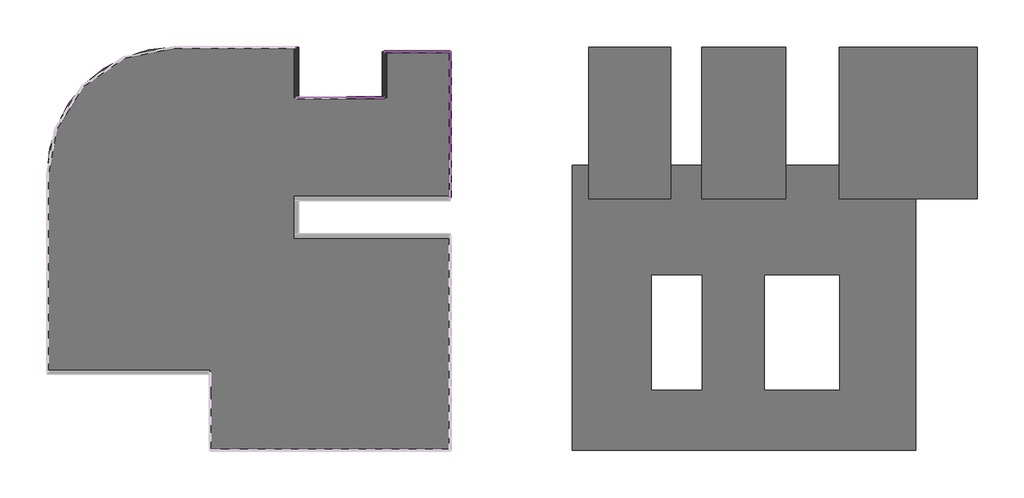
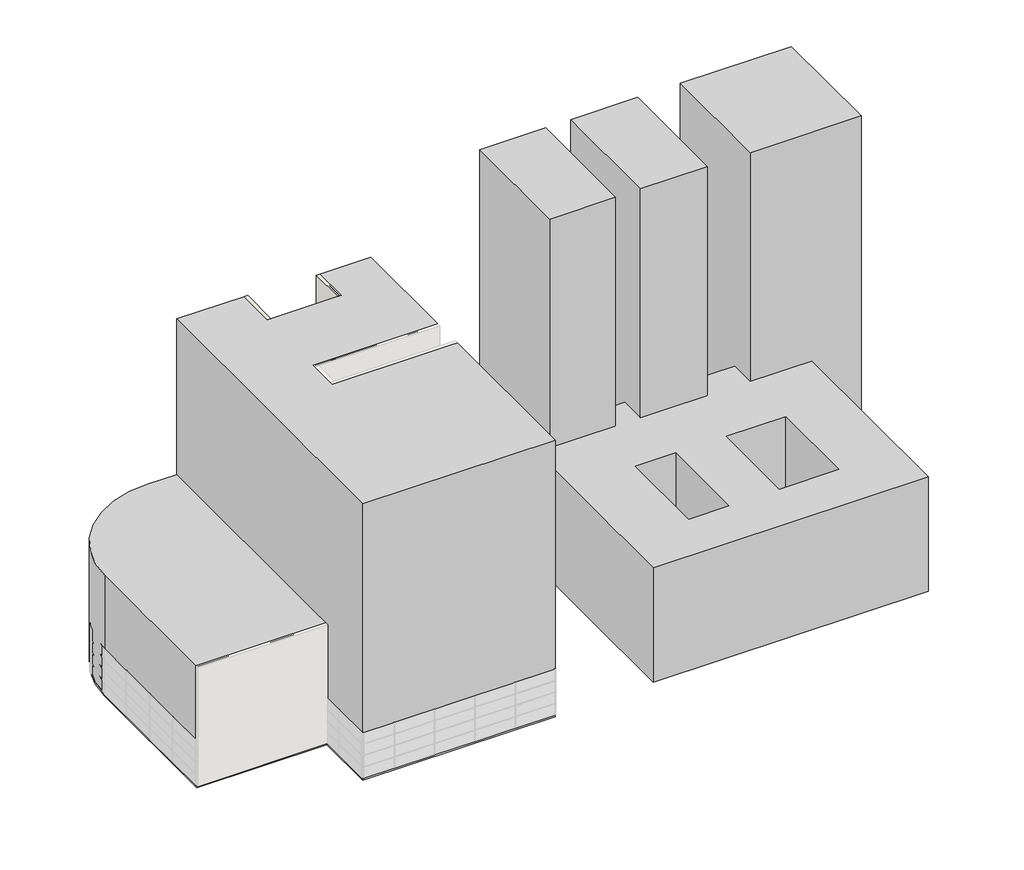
# One storey, part 4 of 4: 61 members, 21 plates, 2 proxies, 2 walls, 1 slab.
"""IFC4 building model written with IfcOpenShell, lengths in millimetres."""

from ifc_helpers import new_model, si_unit, point, frame, frame_2d, origin, origin_with_axes, place, context, project, spatial, polyline, circle_curve, trimmed, segment, composite_curve, outline, extrude, transform, mapped, element, save
from ifc_brep_helpers import plane_surface, cylinder_surface, advanced_brep
from components import rectangular_mullion_50_x_150mm_d99dc9be, rectangular_mullion_50_x_150mm_182bfbd5, rectangular_mullion_50_x_150mm_402ab136, rectangular_mullion_50_x_150mm_6588f46c, rectangular_mullion_50_x_150mm_3fe1b35e, rectangular_mullion_50_x_150mm_a037c29c, rectangular_mullion_50_x_150mm_c2546fd4, rectangular_mullion_50_x_150mm_5eb82d41, rectangular_mullion_50_x_150mm_1a85c1a0, rectangular_mullion_50_x_150mm_185cfd49, rectangular_mullion_50_x_150mm_2fe63767, rectangular_mullion_50_x_150mm_4a524db7, system_panel_glazed_ecbc047f, system_panel_glazed_0d1816dc, system_panel_glazed_8e9402eb, system_panel_glazed_89ac83a7, system_panel_glazed_29e23e46, system_panel_glazed_e3e91f99, system_panel_glazed_0c6ae723, system_panel_glazed_39d17f19

model = new_model("IFC4")

# Units and contexts
model_context = context("Model", 3, world=origin())
ifc_project = project(units=[si_unit("LENGTHUNIT", "METRE", prefix="MILLI")], contexts=[model_context])

# Site, building, storey
site = spatial("IfcSite", under=ifc_project)
building = spatial("IfcBuilding", under=site)
storey = spatial("IfcBuildingStorey", under=building, Name="Suteren", Elevation=0.0)

# Proxies
placement = place(None, origin())
element("IfcBuildingElementProxy", 1, Name="Budova 3 : Budova 3", ObjectType="Budova 3 : Budova 3", at=placement, inside=storey, context=model_context, shape_type="AdvancedBrep", body=[
    advanced_brep(
    [(-5587.173406, 8375.9839566, 28773.2453384), (-5587.173406, -23624.0160434, 28773.2453384), (13503.2660975, -23624.0160434, 28773.2453384), (13503.2660975, -6624.0160434, 28773.2453384), (1278.419219, -6624.0160434, 28773.2453384), (1278.419219, -3624.0160434, 28773.2453384), (13503.2660975, -3624.0160434, 28773.2453384), (13503.2660975, 8039.3555415, 28773.2453384), (8278.419219, 8039.3555415, 28773.2453384), (8278.419219, 4375.9839566, 28773.2453384), (1278.419219, 4375.9839566, 28773.2453384), (1278.419219, 8375.9839566, 28773.2453384), (-18496.7339025, -17423.5291324, 0.0), (-18496.7339025, -1624.0160434, 0.0), (-8496.7339025, 8375.9839566, 0.0), (-5587.173406, 8375.9839566, 0.0), (1278.419219, 8375.9839566, 0.0), (1278.419219, 4375.9839566, 0.0), (8278.419219, 4375.9839566, 0.0), (8278.419219, 8039.3555415, 0.0), (13503.2660975, 8039.3555415, 0.0), (13503.2660975, -3624.0160434, 0.0), (1278.419219, -3624.0160434, 0.0), (1278.419219, -6624.0160434, 0.0), (13503.2660975, -6624.0160434, 0.0), (13503.2660975, -23624.0160434, 0.0), (-5587.173406, -23624.0160434, 0.0), (-5587.173406, -17423.5291324, 0.0), (-5587.173406, -17423.5291324, 12448.4924443), (-18496.7339025, -17423.5291324, 12448.4924443), (-5587.173406, 8375.9839566, 12448.4924443), (-8496.7339025, 8375.9839566, 12448.4924443), (-18496.7339025, -1624.0160434, 12448.4924443)],
    [
        (0, 1),
        (1, 2),
        (2, 3),
        (3, 4),
        (4, 5),
        (5, 6),
        (6, 7),
        (7, 8),
        (8, 9),
        (9, 10),
        (10, 11),
        (11, 0),
        (12, 13),
        (13, 14, circle_curve(frame((-8496.7339025, -1624.0160434, 0.0), z_axis=(0.0, 0.0, -1.0), x_axis=(1.0, 0.0, 0.0)), 10000.0)),
        (14, 15),
        (15, 16),
        (16, 17),
        (17, 18),
        (18, 19),
        (19, 20),
        (20, 21),
        (21, 22),
        (22, 23),
        (23, 24),
        (24, 25),
        (25, 26),
        (26, 27),
        (27, 12),
        (27, 28),
        (28, 29),
        (29, 12),
        (0, 30),
        (30, 28),
        (26, 1),
        (25, 2),
        (24, 3),
        (23, 4),
        (22, 5),
        (21, 6),
        (20, 7),
        (19, 8),
        (18, 9),
        (17, 10),
        (16, 11),
        (15, 30),
        (14, 31),
        (31, 30),
        (13, 32),
        (32, 31, circle_curve(frame((-8496.7339025, -1624.0160434, 12448.4924443), z_axis=(0.0, 0.0, -1.0), x_axis=(1.0, 0.0, 0.0)), 10000.0)),
        (29, 32),
    ],
    [
        plane_surface(frame((-18496.7339025, -17423.5291324, 28773.2453384), z_axis=(0.0, 0.0, 1.0), x_axis=(1.0, 0.0, 0.0))),
        plane_surface(frame((-18496.7339025, -17423.5291324, 0.0), z_axis=(0.0, 0.0, -1.0), x_axis=(-1.0, 0.0, 0.0))),
        plane_surface(frame((-18496.7339025, -17423.5291324, 28773.2453384), z_axis=(0.0, -1.0, 0.0), x_axis=(0.0, 0.0, -1.0))),
        plane_surface(frame((-5587.173406, -17423.5291324, 28773.2453384), z_axis=(-1.0, 0.0, 0.0), x_axis=(0.0, 0.0, -1.0))),
        plane_surface(frame((-5587.173406, -23624.0160434, 28773.2453384), z_axis=(0.0, -1.0, 0.0), x_axis=(0.0, 0.0, -1.0))),
        plane_surface(frame((13503.2660975, -23624.0160434, 28773.2453384), z_axis=(1.0, 0.0, 0.0), x_axis=(0.0, 0.0, -1.0))),
        plane_surface(frame((13503.2660975, -6624.0160434, 28773.2453384), z_axis=(0.0, 1.0, 0.0), x_axis=(0.0, 0.0, -1.0))),
        plane_surface(frame((1278.419219, -6624.0160434, 28773.2453384), z_axis=(1.0, 0.0, 0.0), x_axis=(0.0, 0.0, -1.0))),
        plane_surface(frame((1278.419219, -3624.0160434, 28773.2453384), z_axis=(0.0, -1.0, 0.0), x_axis=(0.0, 0.0, -1.0))),
        plane_surface(frame((13503.2660975, -3624.0160434, 28773.2453384), z_axis=(1.0, 0.0, 0.0), x_axis=(0.0, 0.0, -1.0))),
        plane_surface(frame((13503.2660975, 8039.3555415, 28773.2453384), z_axis=(0.0, 1.0, 0.0), x_axis=(0.0, 0.0, -1.0))),
        plane_surface(frame((8278.419219, 8039.3555415, 28773.2453384), z_axis=(-1.0, 0.0, 0.0), x_axis=(0.0, 0.0, -1.0))),
        plane_surface(frame((8278.419219, 4375.9839566, 28773.2453384), z_axis=(0.0, 1.0, 0.0), x_axis=(0.0, 0.0, -1.0))),
        plane_surface(frame((1278.419219, 4375.9839566, 28773.2453384), z_axis=(1.0, 0.0, 0.0), x_axis=(0.0, 0.0, -1.0))),
        plane_surface(frame((1278.419219, 8375.9839566, 28773.2453384), z_axis=(0.0, 1.0, 0.0), x_axis=(0.0, 0.0, -1.0))),
        plane_surface(frame((-5587.173406, 8375.9839566, 28773.2453384), z_axis=(0.0, 1.0, 0.0), x_axis=(0.0, 0.0, -1.0))),
        cylinder_surface(frame((-8496.7339025, -1624.0160434, 0.0), z_axis=(0.0, 0.0, 1.0), x_axis=(1.0, 0.0, 0.0)), 10000.0),
        plane_surface(frame((-18496.7339025, -1624.0160434, 28773.2453384), z_axis=(-1.0, 0.0, 0.0), x_axis=(0.0, 0.0, -1.0))),
        plane_surface(frame((-5587.173406, 14419.6192508, 12448.4924443), z_axis=(0.0, 0.0, 1.0), x_axis=(0.0, -1.0, 0.0))),
    ],
    [
        (0, [[1, 2, 3, 4, 5, 6, 7, 8, 9, 10, 11, 12]]),
        (1, [[13, 14, 15, 16, 17, 18, 19, 20, 21, 22, 23, 24, 25, 26, 27, 28]]),
        (2, [[-28, 29, 30, 31]]),
        (3, [[32, 33, -29, -27, 34, -1]]),
        (4, [[-2, -34, -26, 35]]),
        (5, [[-3, -35, -25, 36]]),
        (6, [[-4, -36, -24, 37]]),
        (7, [[-5, -37, -23, 38]]),
        (8, [[-6, -38, -22, 39]]),
        (9, [[-7, -39, -21, 40]]),
        (10, [[-8, -40, -20, 41]]),
        (11, [[-9, -41, -19, 42]]),
        (12, [[-10, -42, -18, 43]]),
        (13, [[-11, -43, -17, 44]]),
        (14, [[-12, -44, -16, 45, -32]]),
        (15, [[-15, 46, 47, -45]]),
        (16, [[-14, 48, 49, -46]]),
        (17, [[-13, -31, 50, -48]]),
        (18, [[-33, -47, -49, -50, -30]]),
    ],
),
])
element("IfcBuildingElementProxy", 2, Name="Budova 4 : Budova 4", ObjectType="Budova 4 : Budova 4", at=placement, inside=storey, context=model_context, shape_type="SweptSolid", body=[
    extrude(outline(polyline([(31028.3078366, 8375.9839566), (31028.3078366, -3624.0160434), (24503.2660975, -3624.0160434), (24503.2660975, 8375.9839566), (31028.3078366, 8375.9839566)])), origin_with_axes(), (0.0, 0.0, 1.0), 36000.0),
    extrude(outline(polyline([(40154.0002696, 8375.9839566), (40154.0002696, -3624.0160434), (33503.2660975, -3624.0160434), (33503.2660975, 8375.9839566), (40154.0002696, 8375.9839566)])), origin_with_axes(), (0.0, 0.0, 1.0), 36000.0),
    extrude(outline(polyline([(44401.4778879, -3624.0160434), (44401.4778879, 8375.9839566), (55401.4778879, 8375.9839566), (55401.4778879, -3624.0160434), (44401.4778879, -3624.0160434)])), origin_with_axes(), (0.0, 0.0, 1.0), 36000.0),
    extrude(outline(polyline([(24503.2660975, -967.486669), (24503.2660975, -3624.0160434), (31028.3078366, -3624.0160434), (31028.3078366, -967.486669), (33503.2660975, -967.486669), (33503.2660975, -3624.0160434), (40154.0002696, -3624.0160434), (40154.0002696, -967.486669), (44401.4778879, -967.486669), (44401.4778879, -3624.0160434), (50503.2660975, -3624.0160434), (50503.2660975, -23624.0160434), (23208.2992989, -23624.0160434), (23208.2992989, -967.486669), (24503.2660975, -967.486669)]), holes=[polyline([(44401.4778879, -9707.9757481), (38503.2660975, -9707.9757481), (38503.2660975, -18836.9310085), (44401.4778879, -18836.9310085), (44401.4778879, -9707.9757481)]), polyline([(33503.2660975, -9707.9757481), (29503.2660975, -9707.9757481), (29503.2660975, -18836.9310085), (33503.2660975, -18836.9310085), (33503.2660975, -9707.9757481)])]), origin_with_axes(), (0.0, 0.0, 1.0), 12000.0),
])

# Members
rectangular_mullion_50_x_150mm_shape = rectangular_mullion_50_x_150mm_d99dc9be(model_context)
element("IfcMember", 3, ObjectType="Rectangular Mullion : 50 x 150mm", at=placement, inside=storey, context=model_context, shape_type="MappedRepresentation", body=[
    mapped(rectangular_mullion_50_x_150mm_shape, transform((13503.2660975, 39.3555415, 4800.0), x_axis=(0.0, -1.0, 0.0), y_axis=(1.0, 0.0, 0.0), z_axis=(0.0, 0.0, 1.0))),
])
element("IfcMember", 4, ObjectType="Rectangular Mullion : 50 x 150mm", at=placement, inside=storey, context=model_context, shape_type="MappedRepresentation", body=[
    mapped(rectangular_mullion_50_x_150mm_shape, transform((13503.2660975, 39.3555415, 3600.0), x_axis=(0.0, -1.0, 0.0), y_axis=(1.0, 0.0, 0.0), z_axis=(0.0, 0.0, 1.0))),
])
element("IfcMember", 5, ObjectType="Rectangular Mullion : 50 x 150mm", at=placement, inside=storey, context=model_context, shape_type="MappedRepresentation", body=[
    mapped(rectangular_mullion_50_x_150mm_shape, transform((13503.2660975, 39.3555415, 2400.0), x_axis=(0.0, -1.0, 0.0), y_axis=(1.0, 0.0, 0.0), z_axis=(0.0, 0.0, 1.0))),
])
element("IfcMember", 6, ObjectType="Rectangular Mullion : 50 x 150mm", at=placement, inside=storey, context=model_context, shape_type="MappedRepresentation", body=[
    mapped(rectangular_mullion_50_x_150mm_shape, transform((13503.2660975, 4039.3555415, 4800.0), x_axis=(0.0, -1.0, 0.0), y_axis=(1.0, 0.0, 0.0), z_axis=(0.0, 0.0, 1.0))),
])
element("IfcMember", 7, ObjectType="Rectangular Mullion : 50 x 150mm", at=placement, inside=storey, context=model_context, shape_type="MappedRepresentation", body=[
    mapped(rectangular_mullion_50_x_150mm_shape, transform((13503.2660975, 4039.3555415, 3600.0), x_axis=(0.0, -1.0, 0.0), y_axis=(1.0, 0.0, 0.0), z_axis=(0.0, 0.0, 1.0))),
])
element("IfcMember", 8, ObjectType="Rectangular Mullion : 50 x 150mm", at=placement, inside=storey, context=model_context, shape_type="MappedRepresentation", body=[
    mapped(rectangular_mullion_50_x_150mm_shape, transform((13503.2660975, 4039.3555415, 2400.0), x_axis=(0.0, -1.0, 0.0), y_axis=(1.0, 0.0, 0.0), z_axis=(0.0, 0.0, 1.0))),
])
element("IfcMember", 9, ObjectType="Rectangular Mullion : 50 x 150mm", at=placement, inside=storey, context=model_context, shape_type="MappedRepresentation", body=[
    mapped(rectangular_mullion_50_x_150mm_shape, transform((5278.419219, 4375.9839566, 2400.0), x_axis=(1.0, 0.0, 0.0), y_axis=(0.0, 1.0, 0.0), z_axis=(0.0, 0.0, 1.0))),
])
element("IfcMember", 10, ObjectType="Rectangular Mullion : 50 x 150mm", at=placement, inside=storey, context=model_context, shape_type="MappedRepresentation", body=[
    mapped(rectangular_mullion_50_x_150mm_shape, transform((5278.419219, 4375.9839566, 3600.0), x_axis=(1.0, 0.0, 0.0), y_axis=(0.0, 1.0, 0.0), z_axis=(0.0, 0.0, 1.0))),
])
element("IfcMember", 11, ObjectType="Rectangular Mullion : 50 x 150mm", at=placement, inside=storey, context=model_context, shape_type="MappedRepresentation", body=[
    mapped(rectangular_mullion_50_x_150mm_shape, transform((5278.419219, 4375.9839566, 4800.0), x_axis=(1.0, 0.0, 0.0), y_axis=(0.0, 1.0, 0.0), z_axis=(0.0, 0.0, 1.0))),
])
element("IfcMember", 12, ObjectType="Rectangular Mullion : 50 x 150mm", at=placement, inside=storey, context=model_context, shape_type="MappedRepresentation", body=[
    mapped(rectangular_mullion_50_x_150mm_shape, transform((12278.419219, 8039.3555415, 2400.0), x_axis=(1.0, 0.0, 0.0), y_axis=(0.0, 1.0, 0.0), z_axis=(0.0, 0.0, 1.0))),
])
element("IfcMember", 13, ObjectType="Rectangular Mullion : 50 x 150mm", at=placement, inside=storey, context=model_context, shape_type="MappedRepresentation", body=[
    mapped(rectangular_mullion_50_x_150mm_shape, transform((12278.419219, 8039.3555415, 3600.0), x_axis=(1.0, 0.0, 0.0), y_axis=(0.0, 1.0, 0.0), z_axis=(0.0, 0.0, 1.0))),
])
element("IfcMember", 14, ObjectType="Rectangular Mullion : 50 x 150mm", at=placement, inside=storey, context=model_context, shape_type="MappedRepresentation", body=[
    mapped(rectangular_mullion_50_x_150mm_shape, transform((12278.419219, 8039.3555415, 4800.0), x_axis=(1.0, 0.0, 0.0), y_axis=(0.0, 1.0, 0.0), z_axis=(0.0, 0.0, 1.0))),
])
element("IfcMember", 15, ObjectType="Rectangular Mullion : 50 x 150mm", at=placement, inside=storey, context=model_context, shape_type="MappedRepresentation", body=[
    mapped(rectangular_mullion_50_x_150mm_shape, transform((13503.2660975, 39.3555415, 1200.0), x_axis=(0.0, -1.0, 0.0), y_axis=(1.0, 0.0, 0.0), z_axis=(0.0, 0.0, 1.0))),
])
element("IfcMember", 16, ObjectType="Rectangular Mullion : 50 x 150mm", at=placement, inside=storey, context=model_context, shape_type="MappedRepresentation", body=[
    mapped(rectangular_mullion_50_x_150mm_shape, transform((13503.2660975, 4039.3555415, 1200.0), x_axis=(0.0, -1.0, 0.0), y_axis=(1.0, 0.0, 0.0), z_axis=(0.0, 0.0, 1.0))),
])
element("IfcMember", 17, ObjectType="Rectangular Mullion : 50 x 150mm", at=placement, inside=storey, context=model_context, shape_type="MappedRepresentation", body=[
    mapped(rectangular_mullion_50_x_150mm_shape, transform((5278.419219, 4375.9839566, 1200.0), x_axis=(1.0, 0.0, 0.0), y_axis=(0.0, 1.0, 0.0), z_axis=(0.0, 0.0, 1.0))),
])
element("IfcMember", 18, ObjectType="Rectangular Mullion : 50 x 150mm", at=placement, inside=storey, context=model_context, shape_type="MappedRepresentation", body=[
    mapped(rectangular_mullion_50_x_150mm_shape, transform((12278.419219, 8039.3555415, 1200.0), x_axis=(1.0, 0.0, 0.0), y_axis=(0.0, 1.0, 0.0), z_axis=(0.0, 0.0, 1.0))),
])
rectangular_mullion_50_x_150mm_2_shape = rectangular_mullion_50_x_150mm_182bfbd5(model_context)
element("IfcMember", 19, ObjectType="Rectangular Mullion : 50 x 150mm", at=placement, inside=storey, context=model_context, shape_type="MappedRepresentation", body=[
    mapped(rectangular_mullion_50_x_150mm_2_shape, transform((13503.2660975, 64.3555415, 0.0), x_axis=(0.0, 0.0, -1.0), y_axis=(1.0, 0.0, 0.0), z_axis=(0.0, -1.0, 0.0))),
])
rectangular_mullion_50_x_150mm_3_shape = rectangular_mullion_50_x_150mm_402ab136(model_context)
element("IfcMember", 20, ObjectType="Rectangular Mullion : 50 x 150mm", at=placement, inside=storey, context=model_context, shape_type="MappedRepresentation", body=[
    mapped(rectangular_mullion_50_x_150mm_3_shape, transform((13503.2660975, 4064.3555415, 0.0), x_axis=(0.0, 0.0, -1.0), y_axis=(1.0, 0.0, 0.0), z_axis=(0.0, -1.0, 0.0))),
])
element("IfcMember", 21, ObjectType="Rectangular Mullion : 50 x 150mm", at=placement, inside=storey, context=model_context, shape_type="MappedRepresentation", body=[
    mapped(rectangular_mullion_50_x_150mm_3_shape, transform((5253.419219, 4375.9839566, 0.0), x_axis=(0.0, 0.0, -1.0), y_axis=(0.0, 1.0, 0.0), z_axis=(1.0, 0.0, 0.0))),
])
element("IfcMember", 22, ObjectType="Rectangular Mullion : 50 x 150mm", at=placement, inside=storey, context=model_context, shape_type="MappedRepresentation", body=[
    mapped(rectangular_mullion_50_x_150mm_3_shape, transform((12253.419219, 8039.3555415, 0.0), x_axis=(0.0, 0.0, -1.0), y_axis=(0.0, 1.0, 0.0), z_axis=(1.0, 0.0, 0.0))),
])
rectangular_mullion_50_x_150mm_4_shape = rectangular_mullion_50_x_150mm_6588f46c(model_context)
element("IfcMember", 23, ObjectType="Rectangular Mullion : 50 x 150mm", at=placement, inside=storey, context=model_context, shape_type="MappedRepresentation", body=[
    mapped(rectangular_mullion_50_x_150mm_4_shape, transform((1278.419219, 8375.9839566, 2400.0), x_axis=(1.0, 0.0, 0.0), y_axis=(0.0, 1.0, 0.0), z_axis=(0.0, 0.0, 1.0))),
])
element("IfcMember", 24, ObjectType="Rectangular Mullion : 50 x 150mm", at=placement, inside=storey, context=model_context, shape_type="MappedRepresentation", body=[
    mapped(rectangular_mullion_50_x_150mm_4_shape, transform((1278.419219, 8375.9839566, 3600.0), x_axis=(1.0, 0.0, 0.0), y_axis=(0.0, 1.0, 0.0), z_axis=(0.0, 0.0, 1.0))),
])
element("IfcMember", 25, ObjectType="Rectangular Mullion : 50 x 150mm", at=placement, inside=storey, context=model_context, shape_type="MappedRepresentation", body=[
    mapped(rectangular_mullion_50_x_150mm_4_shape, transform((1278.419219, 8375.9839566, 4800.0), x_axis=(1.0, 0.0, 0.0), y_axis=(0.0, 1.0, 0.0), z_axis=(0.0, 0.0, 1.0))),
])
element("IfcMember", 26, ObjectType="Rectangular Mullion : 50 x 150mm", at=placement, inside=storey, context=model_context, shape_type="MappedRepresentation", body=[
    mapped(rectangular_mullion_50_x_150mm_4_shape, transform((8278.419219, 4375.9839566, 2400.0), x_axis=(1.0, 0.0, 0.0), y_axis=(0.0, 1.0, 0.0), z_axis=(0.0, 0.0, 1.0))),
])
element("IfcMember", 27, ObjectType="Rectangular Mullion : 50 x 150mm", at=placement, inside=storey, context=model_context, shape_type="MappedRepresentation", body=[
    mapped(rectangular_mullion_50_x_150mm_4_shape, transform((8278.419219, 4375.9839566, 3600.0), x_axis=(1.0, 0.0, 0.0), y_axis=(0.0, 1.0, 0.0), z_axis=(0.0, 0.0, 1.0))),
])
element("IfcMember", 28, ObjectType="Rectangular Mullion : 50 x 150mm", at=placement, inside=storey, context=model_context, shape_type="MappedRepresentation", body=[
    mapped(rectangular_mullion_50_x_150mm_4_shape, transform((8278.419219, 4375.9839566, 4800.0), x_axis=(1.0, 0.0, 0.0), y_axis=(0.0, 1.0, 0.0), z_axis=(0.0, 0.0, 1.0))),
])
element("IfcMember", 29, ObjectType="Rectangular Mullion : 50 x 150mm", at=placement, inside=storey, context=model_context, shape_type="MappedRepresentation", body=[
    mapped(rectangular_mullion_50_x_150mm_4_shape, transform((13503.2660975, 8039.3555415, 2400.0), x_axis=(1.0, 0.0, 0.0), y_axis=(0.0, 1.0, 0.0), z_axis=(0.0, 0.0, 1.0))),
])
element("IfcMember", 30, ObjectType="Rectangular Mullion : 50 x 150mm", at=placement, inside=storey, context=model_context, shape_type="MappedRepresentation", body=[
    mapped(rectangular_mullion_50_x_150mm_4_shape, transform((13503.2660975, 8039.3555415, 3600.0), x_axis=(1.0, 0.0, 0.0), y_axis=(0.0, 1.0, 0.0), z_axis=(0.0, 0.0, 1.0))),
])
element("IfcMember", 31, ObjectType="Rectangular Mullion : 50 x 150mm", at=placement, inside=storey, context=model_context, shape_type="MappedRepresentation", body=[
    mapped(rectangular_mullion_50_x_150mm_4_shape, transform((13503.2660975, 8039.3555415, 4800.0), x_axis=(1.0, 0.0, 0.0), y_axis=(0.0, 1.0, 0.0), z_axis=(0.0, 0.0, 1.0))),
])
element("IfcMember", 32, ObjectType="Rectangular Mullion : 50 x 150mm", at=placement, inside=storey, context=model_context, shape_type="MappedRepresentation", body=[
    mapped(rectangular_mullion_50_x_150mm_4_shape, transform((1278.419219, 8375.9839566, 1200.0), x_axis=(1.0, 0.0, 0.0), y_axis=(0.0, 1.0, 0.0), z_axis=(0.0, 0.0, 1.0))),
])
element("IfcMember", 33, ObjectType="Rectangular Mullion : 50 x 150mm", at=placement, inside=storey, context=model_context, shape_type="MappedRepresentation", body=[
    mapped(rectangular_mullion_50_x_150mm_4_shape, transform((8278.419219, 4375.9839566, 1200.0), x_axis=(1.0, 0.0, 0.0), y_axis=(0.0, 1.0, 0.0), z_axis=(0.0, 0.0, 1.0))),
])
element("IfcMember", 34, ObjectType="Rectangular Mullion : 50 x 150mm", at=placement, inside=storey, context=model_context, shape_type="MappedRepresentation", body=[
    mapped(rectangular_mullion_50_x_150mm_4_shape, transform((13503.2660975, 8039.3555415, 1200.0), x_axis=(1.0, 0.0, 0.0), y_axis=(0.0, 1.0, 0.0), z_axis=(0.0, 0.0, 1.0))),
])
rectangular_mullion_50_x_150mm_5_shape = rectangular_mullion_50_x_150mm_3fe1b35e(model_context)
element("IfcMember", 35, ObjectType="Rectangular Mullion : 50 x 150mm", at=placement, inside=storey, context=model_context, shape_type="MappedRepresentation", body=[
    mapped(rectangular_mullion_50_x_150mm_5_shape, transform((13503.2660975, 14.3555415, 3600.0), x_axis=(0.0, 0.0, 1.0), y_axis=(1.0, 0.0, 0.0), z_axis=(0.0, 1.0, 0.0))),
])
element("IfcMember", 36, ObjectType="Rectangular Mullion : 50 x 150mm", at=placement, inside=storey, context=model_context, shape_type="MappedRepresentation", body=[
    mapped(rectangular_mullion_50_x_150mm_5_shape, transform((13503.2660975, 14.3555415, 2400.0), x_axis=(0.0, 0.0, 1.0), y_axis=(1.0, 0.0, 0.0), z_axis=(0.0, 1.0, 0.0))),
])
element("IfcMember", 37, ObjectType="Rectangular Mullion : 50 x 150mm", at=placement, inside=storey, context=model_context, shape_type="MappedRepresentation", body=[
    mapped(rectangular_mullion_50_x_150mm_5_shape, transform((13503.2660975, 14.3555415, 1200.0), x_axis=(0.0, 0.0, 1.0), y_axis=(1.0, 0.0, 0.0), z_axis=(0.0, 1.0, 0.0))),
])
rectangular_mullion_50_x_150mm_6_shape = rectangular_mullion_50_x_150mm_a037c29c(model_context)
element("IfcMember", 38, ObjectType="Rectangular Mullion : 50 x 150mm", at=placement, inside=storey, context=model_context, shape_type="MappedRepresentation", body=[
    mapped(rectangular_mullion_50_x_150mm_6_shape, transform((13503.2660975, 4014.3555415, 3600.0), x_axis=(0.0, 0.0, 1.0), y_axis=(1.0, 0.0, 0.0), z_axis=(0.0, 1.0, 0.0))),
])
element("IfcMember", 39, ObjectType="Rectangular Mullion : 50 x 150mm", at=placement, inside=storey, context=model_context, shape_type="MappedRepresentation", body=[
    mapped(rectangular_mullion_50_x_150mm_6_shape, transform((13503.2660975, 4014.3555415, 2400.0), x_axis=(0.0, 0.0, 1.0), y_axis=(1.0, 0.0, 0.0), z_axis=(0.0, 1.0, 0.0))),
])
element("IfcMember", 40, ObjectType="Rectangular Mullion : 50 x 150mm", at=placement, inside=storey, context=model_context, shape_type="MappedRepresentation", body=[
    mapped(rectangular_mullion_50_x_150mm_6_shape, transform((13503.2660975, 4014.3555415, 1200.0), x_axis=(0.0, 0.0, 1.0), y_axis=(1.0, 0.0, 0.0), z_axis=(0.0, 1.0, 0.0))),
])
rectangular_mullion_50_x_150mm_7_shape = rectangular_mullion_50_x_150mm_c2546fd4(model_context)
element("IfcMember", 41, ObjectType="Rectangular Mullion : 50 x 150mm", at=placement, inside=storey, context=model_context, shape_type="MappedRepresentation", body=[
    mapped(rectangular_mullion_50_x_150mm_7_shape, transform((13503.2660975, 7989.3555415, 3600.0), x_axis=(0.0, 0.0, 1.0), y_axis=(1.0, 0.0, 0.0), z_axis=(0.0, 1.0, 0.0))),
])
element("IfcMember", 42, ObjectType="Rectangular Mullion : 50 x 150mm", at=placement, inside=storey, context=model_context, shape_type="MappedRepresentation", body=[
    mapped(rectangular_mullion_50_x_150mm_7_shape, transform((13503.2660975, 7989.3555415, 2400.0), x_axis=(0.0, 0.0, 1.0), y_axis=(1.0, 0.0, 0.0), z_axis=(0.0, 1.0, 0.0))),
])
element("IfcMember", 43, ObjectType="Rectangular Mullion : 50 x 150mm", at=placement, inside=storey, context=model_context, shape_type="MappedRepresentation", body=[
    mapped(rectangular_mullion_50_x_150mm_7_shape, transform((13503.2660975, 7989.3555415, 1200.0), x_axis=(0.0, 0.0, 1.0), y_axis=(1.0, 0.0, 0.0), z_axis=(0.0, 1.0, 0.0))),
])
element("IfcMember", 44, ObjectType="Rectangular Mullion : 50 x 150mm", at=placement, inside=storey, context=model_context, shape_type="MappedRepresentation", body=[
    mapped(rectangular_mullion_50_x_150mm_7_shape, transform((8328.419219, 8039.3555415, 1200.0), x_axis=(0.0, 0.0, 1.0), y_axis=(0.0, 1.0, 0.0), z_axis=(-1.0, 0.0, 0.0))),
])
element("IfcMember", 45, ObjectType="Rectangular Mullion : 50 x 150mm", at=placement, inside=storey, context=model_context, shape_type="MappedRepresentation", body=[
    mapped(rectangular_mullion_50_x_150mm_7_shape, transform((8328.419219, 8039.3555415, 2400.0), x_axis=(0.0, 0.0, 1.0), y_axis=(0.0, 1.0, 0.0), z_axis=(-1.0, 0.0, 0.0))),
])
element("IfcMember", 46, ObjectType="Rectangular Mullion : 50 x 150mm", at=placement, inside=storey, context=model_context, shape_type="MappedRepresentation", body=[
    mapped(rectangular_mullion_50_x_150mm_7_shape, transform((8328.419219, 8039.3555415, 3600.0), x_axis=(0.0, 0.0, 1.0), y_axis=(0.0, 1.0, 0.0), z_axis=(-1.0, 0.0, 0.0))),
])
element("IfcMember", 47, ObjectType="Rectangular Mullion : 50 x 150mm", at=placement, inside=storey, context=model_context, shape_type="MappedRepresentation", body=[
    mapped(rectangular_mullion_50_x_150mm_4_shape, transform((13503.2660975, 8039.3555415, 3600.0), x_axis=(0.0, 1.0, 0.0), y_axis=(1.0, 0.0, 0.0), z_axis=(0.0, 0.0, -1.0))),
])
element("IfcMember", 48, ObjectType="Rectangular Mullion : 50 x 150mm", at=placement, inside=storey, context=model_context, shape_type="MappedRepresentation", body=[
    mapped(rectangular_mullion_50_x_150mm_4_shape, transform((13503.2660975, 8039.3555415, 2400.0), x_axis=(0.0, 1.0, 0.0), y_axis=(1.0, 0.0, 0.0), z_axis=(0.0, 0.0, -1.0))),
])
element("IfcMember", 49, ObjectType="Rectangular Mullion : 50 x 150mm", at=placement, inside=storey, context=model_context, shape_type="MappedRepresentation", body=[
    mapped(rectangular_mullion_50_x_150mm_4_shape, transform((13503.2660975, 8039.3555415, 1200.0), x_axis=(0.0, 1.0, 0.0), y_axis=(1.0, 0.0, 0.0), z_axis=(0.0, 0.0, -1.0))),
])
element("IfcMember", 50, ObjectType="Rectangular Mullion : 50 x 150mm", at=placement, inside=storey, context=model_context, shape_type="MappedRepresentation", body=[
    mapped(rectangular_mullion_50_x_150mm_4_shape, transform((8278.419219, 8039.3555415, 1200.0), x_axis=(-1.0, 0.0, 0.0), y_axis=(0.0, 1.0, 0.0), z_axis=(0.0, 0.0, -1.0))),
])
element("IfcMember", 51, ObjectType="Rectangular Mullion : 50 x 150mm", at=placement, inside=storey, context=model_context, shape_type="MappedRepresentation", body=[
    mapped(rectangular_mullion_50_x_150mm_4_shape, transform((8278.419219, 8039.3555415, 2400.0), x_axis=(-1.0, 0.0, 0.0), y_axis=(0.0, 1.0, 0.0), z_axis=(0.0, 0.0, -1.0))),
])
element("IfcMember", 52, ObjectType="Rectangular Mullion : 50 x 150mm", at=placement, inside=storey, context=model_context, shape_type="MappedRepresentation", body=[
    mapped(rectangular_mullion_50_x_150mm_4_shape, transform((8278.419219, 8039.3555415, 3600.0), x_axis=(-1.0, 0.0, 0.0), y_axis=(0.0, 1.0, 0.0), z_axis=(0.0, 0.0, -1.0))),
])
element("IfcMember", 53, ObjectType="Rectangular Mullion : 50 x 150mm", at=placement, inside=storey, context=model_context, shape_type="MappedRepresentation", body=[
    mapped(rectangular_mullion_50_x_150mm_4_shape, transform((13503.2660975, 8039.3555415, 0.0), x_axis=(0.0, 1.0, 0.0), y_axis=(1.0, 0.0, 0.0), z_axis=(0.0, 0.0, -1.0))),
])
element("IfcMember", 54, ObjectType="Rectangular Mullion : 50 x 150mm", at=placement, inside=storey, context=model_context, shape_type="MappedRepresentation", body=[
    mapped(rectangular_mullion_50_x_150mm_4_shape, transform((8278.419219, 8039.3555415, 0.0), x_axis=(-1.0, 0.0, 0.0), y_axis=(0.0, 1.0, 0.0), z_axis=(0.0, 0.0, -1.0))),
])
rectangular_mullion_50_x_150mm_8_shape = rectangular_mullion_50_x_150mm_5eb82d41(model_context)
element("IfcMember", 55, ObjectType="Rectangular Mullion : 50 x 150mm", at=placement, inside=storey, context=model_context, shape_type="MappedRepresentation", body=[
    mapped(rectangular_mullion_50_x_150mm_8_shape, transform((1228.419219, 8375.9839566, 0.0), x_axis=(0.0, 0.0, -1.0), y_axis=(0.0, 1.0, 0.0), z_axis=(1.0, 0.0, 0.0))),
])
rectangular_mullion_50_x_150mm_9_shape = rectangular_mullion_50_x_150mm_1a85c1a0(model_context)
element("IfcMember", 56, ObjectType="Rectangular Mullion : 50 x 150mm", at=placement, inside=storey, context=model_context, shape_type="MappedRepresentation", body=[
    mapped(rectangular_mullion_50_x_150mm_9_shape, transform((8228.419219, 4375.9839566, 0.0), x_axis=(0.0, 0.0, -1.0), y_axis=(0.0, 1.0, 0.0), z_axis=(1.0, 0.0, 0.0))),
])
rectangular_mullion_50_x_150mm_10_shape = rectangular_mullion_50_x_150mm_185cfd49(model_context)
element("IfcMember", 57, ObjectType="Rectangular Mullion : 50 x 150mm", at=placement, inside=storey, context=model_context, shape_type="MappedRepresentation", body=[
    mapped(rectangular_mullion_50_x_150mm_10_shape, transform((5303.419219, 4375.9839566, 1200.0), x_axis=(0.0, 0.0, 1.0), y_axis=(0.0, 1.0, 0.0), z_axis=(-1.0, 0.0, 0.0))),
])
element("IfcMember", 58, ObjectType="Rectangular Mullion : 50 x 150mm", at=placement, inside=storey, context=model_context, shape_type="MappedRepresentation", body=[
    mapped(rectangular_mullion_50_x_150mm_10_shape, transform((5303.419219, 4375.9839566, 2400.0), x_axis=(0.0, 0.0, 1.0), y_axis=(0.0, 1.0, 0.0), z_axis=(-1.0, 0.0, 0.0))),
])
element("IfcMember", 59, ObjectType="Rectangular Mullion : 50 x 150mm", at=placement, inside=storey, context=model_context, shape_type="MappedRepresentation", body=[
    mapped(rectangular_mullion_50_x_150mm_10_shape, transform((5303.419219, 4375.9839566, 3600.0), x_axis=(0.0, 0.0, 1.0), y_axis=(0.0, 1.0, 0.0), z_axis=(-1.0, 0.0, 0.0))),
])
rectangular_mullion_50_x_150mm_11_shape = rectangular_mullion_50_x_150mm_2fe63767(model_context)
element("IfcMember", 60, ObjectType="Rectangular Mullion : 50 x 150mm", at=placement, inside=storey, context=model_context, shape_type="MappedRepresentation", body=[
    mapped(rectangular_mullion_50_x_150mm_11_shape, transform((12303.419219, 8039.3555415, 1200.0), x_axis=(0.0, 0.0, 1.0), y_axis=(0.0, 1.0, 0.0), z_axis=(-1.0, 0.0, 0.0))),
])
element("IfcMember", 61, ObjectType="Rectangular Mullion : 50 x 150mm", at=placement, inside=storey, context=model_context, shape_type="MappedRepresentation", body=[
    mapped(rectangular_mullion_50_x_150mm_11_shape, transform((12303.419219, 8039.3555415, 2400.0), x_axis=(0.0, 0.0, 1.0), y_axis=(0.0, 1.0, 0.0), z_axis=(-1.0, 0.0, 0.0))),
])
element("IfcMember", 62, ObjectType="Rectangular Mullion : 50 x 150mm", at=placement, inside=storey, context=model_context, shape_type="MappedRepresentation", body=[
    mapped(rectangular_mullion_50_x_150mm_11_shape, transform((12303.419219, 8039.3555415, 3600.0), x_axis=(0.0, 0.0, 1.0), y_axis=(0.0, 1.0, 0.0), z_axis=(-1.0, 0.0, 0.0))),
])
rectangular_mullion_50_x_150mm_12_shape = rectangular_mullion_50_x_150mm_4a524db7(model_context)
element("IfcMember", 63, ObjectType="Rectangular Mullion : 50 x 150mm", at=placement, inside=storey, context=model_context, shape_type="MappedRepresentation", body=[
    mapped(rectangular_mullion_50_x_150mm_12_shape, transform((13453.2660975, 8039.3555415, 0.0), x_axis=(0.0, 0.0, -1.0), y_axis=(0.0, 1.0, 0.0), z_axis=(1.0, 0.0, 0.0))),
])

# Plates
system_panel_glazed_shape = system_panel_glazed_ecbc047f(model_context)
element("IfcPlate", 64, ObjectType="System Panel : Glazed", at=placement, inside=storey, context=model_context, shape_type="MappedRepresentation", body=[
    mapped(system_panel_glazed_shape, transform((13503.2660975, 6026.8555415, 50.0), x_axis=(0.0, -1.0, 0.0), y_axis=(1.0, 0.0, 0.0), z_axis=(0.0, 0.0, 1.0))),
])
element("IfcPlate", 65, ObjectType="System Panel : Glazed", at=placement, inside=storey, context=model_context, shape_type="MappedRepresentation", body=[
    mapped(system_panel_glazed_shape, transform((10290.919219, 8039.3555415, 50.0), x_axis=(1.0, 0.0, 0.0), y_axis=(0.0, 1.0, 0.0), z_axis=(0.0, 0.0, 1.0))),
])
system_panel_glazed_2_shape = system_panel_glazed_0d1816dc(model_context)
element("IfcPlate", 66, ObjectType="System Panel : Glazed", at=placement, inside=storey, context=model_context, shape_type="MappedRepresentation", body=[
    mapped(system_panel_glazed_2_shape, transform((13503.2660975, 2039.3555415, 50.0), x_axis=(0.0, -1.0, 0.0), y_axis=(1.0, 0.0, 0.0), z_axis=(0.0, 0.0, 1.0))),
])
system_panel_glazed_3_shape = system_panel_glazed_8e9402eb(model_context)
element("IfcPlate", 67, ObjectType="System Panel : Glazed", at=placement, inside=storey, context=model_context, shape_type="MappedRepresentation", body=[
    mapped(system_panel_glazed_3_shape, transform((13503.2660975, 6026.8555415, 1225.0), x_axis=(0.0, -1.0, 0.0), y_axis=(1.0, 0.0, 0.0), z_axis=(0.0, 0.0, 1.0))),
])
element("IfcPlate", 68, ObjectType="System Panel : Glazed", at=placement, inside=storey, context=model_context, shape_type="MappedRepresentation", body=[
    mapped(system_panel_glazed_3_shape, transform((13503.2660975, 6026.8555415, 2425.0), x_axis=(0.0, -1.0, 0.0), y_axis=(1.0, 0.0, 0.0), z_axis=(0.0, 0.0, 1.0))),
])
element("IfcPlate", 69, ObjectType="System Panel : Glazed", at=placement, inside=storey, context=model_context, shape_type="MappedRepresentation", body=[
    mapped(system_panel_glazed_3_shape, transform((13503.2660975, 6026.8555415, 3625.0), x_axis=(0.0, -1.0, 0.0), y_axis=(1.0, 0.0, 0.0), z_axis=(0.0, 0.0, 1.0))),
])
element("IfcPlate", 70, ObjectType="System Panel : Glazed", at=placement, inside=storey, context=model_context, shape_type="MappedRepresentation", body=[
    mapped(system_panel_glazed_3_shape, transform((10290.919219, 8039.3555415, 1225.0), x_axis=(1.0, 0.0, 0.0), y_axis=(0.0, 1.0, 0.0), z_axis=(0.0, 0.0, 1.0))),
])
element("IfcPlate", 71, ObjectType="System Panel : Glazed", at=placement, inside=storey, context=model_context, shape_type="MappedRepresentation", body=[
    mapped(system_panel_glazed_3_shape, transform((10290.919219, 8039.3555415, 2425.0), x_axis=(1.0, 0.0, 0.0), y_axis=(0.0, 1.0, 0.0), z_axis=(0.0, 0.0, 1.0))),
])
element("IfcPlate", 72, ObjectType="System Panel : Glazed", at=placement, inside=storey, context=model_context, shape_type="MappedRepresentation", body=[
    mapped(system_panel_glazed_3_shape, transform((10290.919219, 8039.3555415, 3625.0), x_axis=(1.0, 0.0, 0.0), y_axis=(0.0, 1.0, 0.0), z_axis=(0.0, 0.0, 1.0))),
])
element("IfcPlate", 73, ObjectType="System Panel : Glazed", at=placement, inside=storey, context=model_context, shape_type="MappedRepresentation", body=[
    mapped(system_panel_glazed_3_shape, transform((3290.919219, 4375.9839566, 3625.0), x_axis=(1.0, 0.0, 0.0), y_axis=(0.0, 1.0, 0.0), z_axis=(0.0, 0.0, 1.0))),
])
system_panel_glazed_4_shape = system_panel_glazed_89ac83a7(model_context)
element("IfcPlate", 74, ObjectType="System Panel : Glazed", at=placement, inside=storey, context=model_context, shape_type="MappedRepresentation", body=[
    mapped(system_panel_glazed_4_shape, transform((13503.2660975, 2039.3555415, 1225.0), x_axis=(0.0, -1.0, 0.0), y_axis=(1.0, 0.0, 0.0), z_axis=(0.0, 0.0, 1.0))),
])
element("IfcPlate", 75, ObjectType="System Panel : Glazed", at=placement, inside=storey, context=model_context, shape_type="MappedRepresentation", body=[
    mapped(system_panel_glazed_4_shape, transform((13503.2660975, 2039.3555415, 2425.0), x_axis=(0.0, -1.0, 0.0), y_axis=(1.0, 0.0, 0.0), z_axis=(0.0, 0.0, 1.0))),
])
element("IfcPlate", 76, ObjectType="System Panel : Glazed", at=placement, inside=storey, context=model_context, shape_type="MappedRepresentation", body=[
    mapped(system_panel_glazed_4_shape, transform((13503.2660975, 2039.3555415, 3625.0), x_axis=(0.0, -1.0, 0.0), y_axis=(1.0, 0.0, 0.0), z_axis=(0.0, 0.0, 1.0))),
])
system_panel_glazed_5_shape = system_panel_glazed_29e23e46(model_context)
element("IfcPlate", 77, ObjectType="System Panel : Glazed", at=placement, inside=storey, context=model_context, shape_type="MappedRepresentation", body=[
    mapped(system_panel_glazed_5_shape, transform((6765.919219, 4375.9839566, 50.0), x_axis=(1.0, 0.0, 0.0), y_axis=(0.0, 1.0, 0.0), z_axis=(0.0, 0.0, 1.0))),
])
system_panel_glazed_6_shape = system_panel_glazed_e3e91f99(model_context)
element("IfcPlate", 78, ObjectType="System Panel : Glazed", at=placement, inside=storey, context=model_context, shape_type="MappedRepresentation", body=[
    mapped(system_panel_glazed_6_shape, transform((6765.919219, 4375.9839566, 1225.0), x_axis=(1.0, 0.0, 0.0), y_axis=(0.0, 1.0, 0.0), z_axis=(0.0, 0.0, 1.0))),
])
element("IfcPlate", 79, ObjectType="System Panel : Glazed", at=placement, inside=storey, context=model_context, shape_type="MappedRepresentation", body=[
    mapped(system_panel_glazed_6_shape, transform((6765.919219, 4375.9839566, 2425.0), x_axis=(1.0, 0.0, 0.0), y_axis=(0.0, 1.0, 0.0), z_axis=(0.0, 0.0, 1.0))),
])
element("IfcPlate", 80, ObjectType="System Panel : Glazed", at=placement, inside=storey, context=model_context, shape_type="MappedRepresentation", body=[
    mapped(system_panel_glazed_6_shape, transform((6765.919219, 4375.9839566, 3625.0), x_axis=(1.0, 0.0, 0.0), y_axis=(0.0, 1.0, 0.0), z_axis=(0.0, 0.0, 1.0))),
])
system_panel_glazed_7_shape = system_panel_glazed_0c6ae723(model_context)
element("IfcPlate", 81, ObjectType="System Panel : Glazed", at=placement, inside=storey, context=model_context, shape_type="MappedRepresentation", body=[
    mapped(system_panel_glazed_7_shape, transform((12878.3426582, 8039.3555415, 50.0), x_axis=(1.0, 0.0, 0.0), y_axis=(0.0, 1.0, 0.0), z_axis=(0.0, 0.0, 1.0))),
])
system_panel_glazed_8_shape = system_panel_glazed_39d17f19(model_context)
element("IfcPlate", 82, ObjectType="System Panel : Glazed", at=placement, inside=storey, context=model_context, shape_type="MappedRepresentation", body=[
    mapped(system_panel_glazed_8_shape, transform((12878.3426582, 8039.3555415, 1225.0), x_axis=(1.0, 0.0, 0.0), y_axis=(0.0, 1.0, 0.0), z_axis=(0.0, 0.0, 1.0))),
])
element("IfcPlate", 83, ObjectType="System Panel : Glazed", at=placement, inside=storey, context=model_context, shape_type="MappedRepresentation", body=[
    mapped(system_panel_glazed_8_shape, transform((12878.3426582, 8039.3555415, 2425.0), x_axis=(1.0, 0.0, 0.0), y_axis=(0.0, 1.0, 0.0), z_axis=(0.0, 0.0, 1.0))),
])
element("IfcPlate", 84, ObjectType="System Panel : Glazed", at=placement, inside=storey, context=model_context, shape_type="MappedRepresentation", body=[
    mapped(system_panel_glazed_8_shape, transform((12878.3426582, 8039.3555415, 3625.0), x_axis=(1.0, 0.0, 0.0), y_axis=(0.0, 1.0, 0.0), z_axis=(0.0, 0.0, 1.0))),
])

# Slab
element("IfcSlab", 85, ObjectType="Insitu Concrete 225mm", at=placement, inside=storey, context=model_context, shape_type="SweptSolid", body=[
    extrude(outline(composite_curve([segment(polyline([(-18496.7339025, -17423.5291324), (-18496.7339025, -1624.0160434)]), True, "CONTINUOUS"), segment(trimmed(circle_curve(frame_2d((-8496.7339025, -1624.0160434)), 10000.0), [point((-18496.7339025, -1624.0160434))], [point((-8496.7339025, 8375.9839566))], False, "CARTESIAN"), True, "CONTINUOUS"), segment(polyline([(-8496.7339025, 8375.9839566), (-5587.173406, 8375.9839566), (1278.419219, 8375.9839566), (1278.419219, 4375.9839566), (8278.419219, 4375.9839566), (8278.419219, 8039.3555415), (13503.2660975, 8039.3555415), (13503.2660975, -3624.0160434), (1278.419219, -3624.0160434), (1278.419219, -6624.0160434), (13503.2660975, -6624.0160434), (13503.2660975, -23624.0160434), (-5587.173406, -23624.0160434), (-5587.173406, -17423.5291324), (-18496.7339025, -17423.5291324)]), True, "CONTINUOUS")], self_intersect=False)), frame((0.0, 0.0, -225.0), z_axis=(0.0, 0.0, 1.0), x_axis=(1.0, 0.0, 0.0)), (0.0, 0.0, 1.0), 225.0),
])

# Walls
element("IfcWall", 86, ObjectType="Exterior - Brick on Mtl. Stud", at=placement, inside=storey, context=model_context, shape_type="SweptSolid", body=[
    extrude(outline(polyline([(1463.419219, 8375.9839566), (1463.419219, 4375.9839566), (1113.419219, 4375.9839566), (1113.419219, 8375.9839566), (1463.419219, 8375.9839566)])), origin_with_axes(), (0.0, 0.0, 1.0), 28773.2453384),
])
element("IfcWall", 87, ObjectType="Exterior - Brick on Mtl. Stud", at=placement, inside=storey, context=model_context, shape_type="SweptSolid", body=[
    extrude(outline(polyline([(8093.419219, 4375.9839566), (8093.419219, 8039.3555415), (8443.419219, 8039.3555415), (8443.419219, 4375.9839566), (8093.419219, 4375.9839566)])), origin_with_axes(), (0.0, 0.0, 1.0), 28773.2453384),
])

save(model, "model.ifc")
